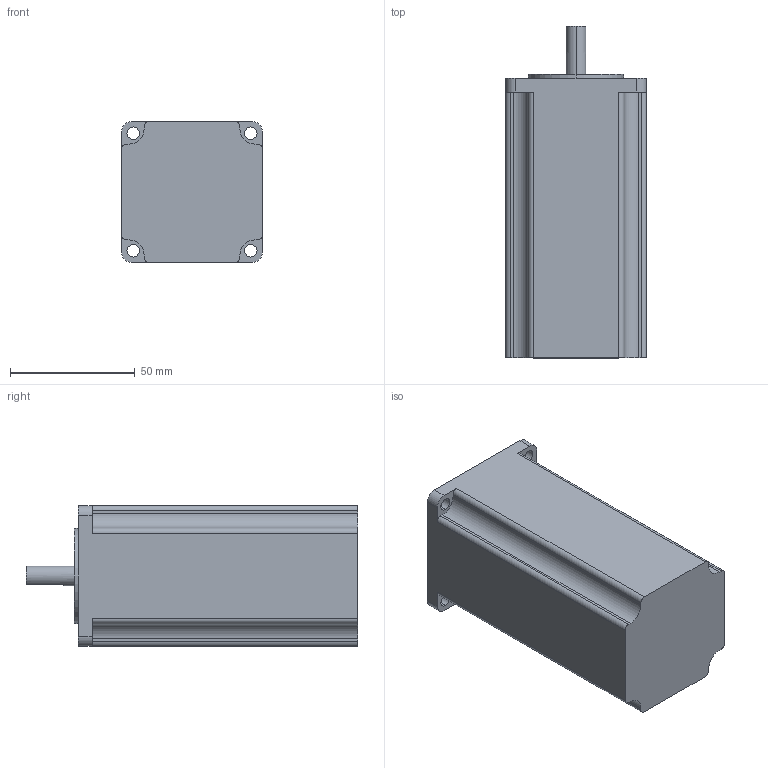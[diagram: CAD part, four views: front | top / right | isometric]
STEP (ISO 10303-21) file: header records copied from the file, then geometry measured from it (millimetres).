
FILE_DESCRIPTION (( 'STEP AP203' ), '1' );
FILE_NAME ('2S57Q-25B2.STEP', '2015-05-18T03:16:12', ( 'IT毞諾' ), ( 'iTianKong.com' ), 'SwSTEP 2.0', 'SolidWorks 2008', '' );
FILE_SCHEMA (( 'CONFIG_CONTROL_DESIGN' ));
Length unit declared in the file: millimetre
Products named in the file (1): 2S57Q-25B2
Bounding box: 56.4 x 133 x 56.4 mm (x, y, z)
Volume: 326593.5 mm3; surface area: 30600.5 mm2
Topology: 1 solids, 1 shells, 50 faces, 138 edges, 92 vertices
Faces by surface type: cylinder 28, plane 22
Entity records: 1713 total; most frequent: DIRECTION 298, CARTESIAN_POINT 281, ORIENTED_EDGE 276, EDGE_CURVE 138, AXIS2_PLACEMENT_3D 109, VERTEX_POINT 92, VECTOR 80, LINE 80
